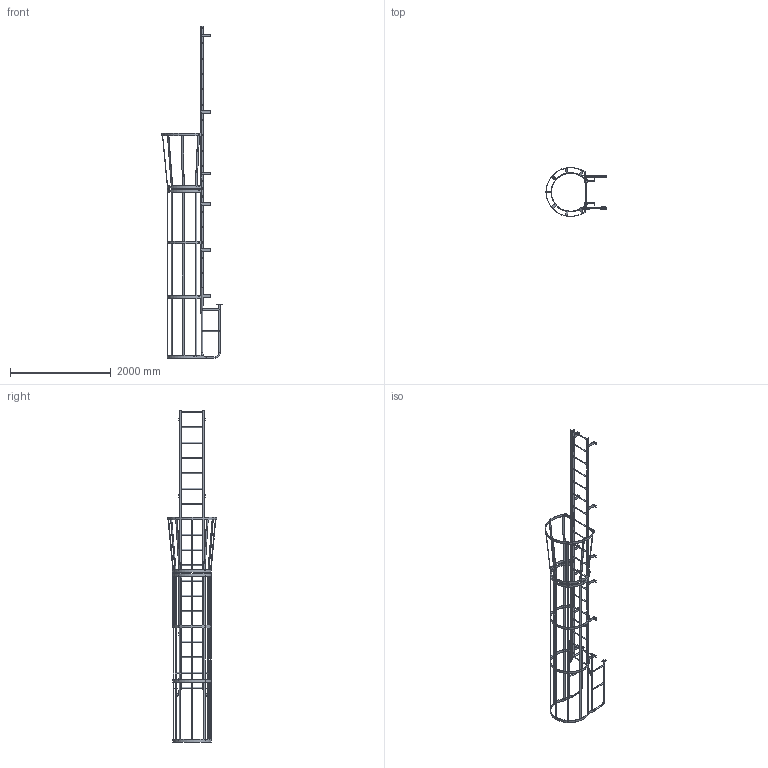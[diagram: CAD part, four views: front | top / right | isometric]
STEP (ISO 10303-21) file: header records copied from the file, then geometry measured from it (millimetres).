
FILE_DESCRIPTION(/* description */ (''),/* implementation_level */ '2;1');
FILE_NAME(/* name */ 'P:\MIKEL & KAREN\D0570196-05 F19WC SIMPLIFIED PART.stp',/* time_stamp */ '2018-07-03T08:16:37-04:00',/* author */ ('stephanie'),/* organization */ (''),/* preprocessor_version */ 'ST-DEVELOPER v16.1',/* originating_system */ 'Autodesk Inventor 2016',/* authorisation */ '');
FILE_SCHEMA (('AUTOMOTIVE_DESIGN { 1 0 10303 214 3 1 1 }'));
Length unit declared in the file: centimetre
Products named in the file (1): D0570196-05 F19WC SIMPLIFIED PART
Bounding box: 1195.62 x 977.88 x 6600.82 mm (x, y, z)
Volume: 20620431.7 mm3; surface area: 8034273.8 mm2
Topology: 26 solids, 28 shells, 799 faces, 2339 edges, 1518 vertices
Faces by surface type: plane 506, cylinder 253, cone 32, torus 8
Full cylindrical faces by diameter (mm): 10.319 x4, 12.7 x4, 14.287 x14, 16.193 x2, 19.05 x21, 22.098 x10, 22.225 x38, 25.4 x10
Entity records: 26867 total; most frequent: CARTESIAN_POINT 4926, ORIENTED_EDGE 4378, DIRECTION 4341, EDGE_CURVE 2154, AXIS2_PLACEMENT_3D 1463, VERTEX_POINT 1452, LINE 1415, VECTOR 1415
